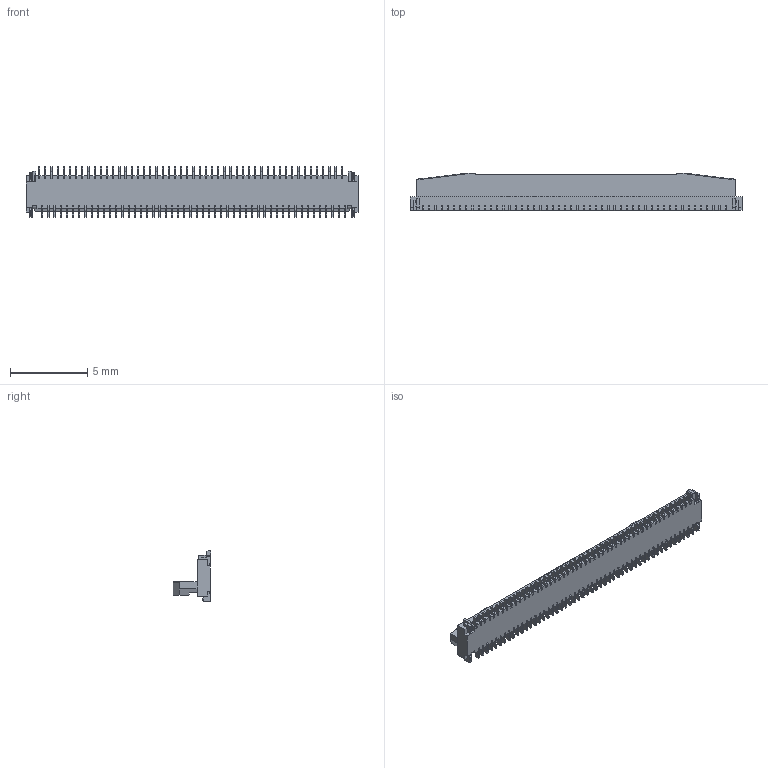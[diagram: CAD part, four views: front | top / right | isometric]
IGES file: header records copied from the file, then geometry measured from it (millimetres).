
Start section: SolidWorks IGES file using analytic representation for surfaces
Global section: file name: Q:\個人専用\宮崎\製品別資料\2-BF\中間ファイル\20617-100E-01C ASS'Y ACT OPEN IGES R5 ALL.IGS; native system: SolidWorks 2014; preprocessor: SolidWorks 2014; author: ieng2-013; date: 170523.132005; units: millimetre
Bounding box: 21.5 x 2.45 x 3.3 mm (x, y, z)
Surface area: 262.2 mm2 (no closed solid volume)
Topology: 0 solids, 0 shells, 2912 faces, 19220 edges, 19220 vertices
Faces by surface type: bspline 1982, revolution 930
